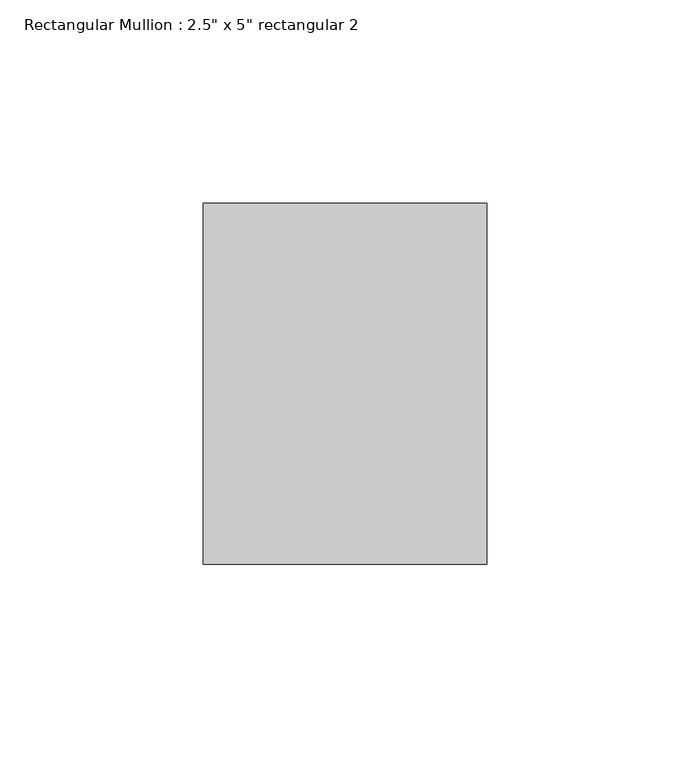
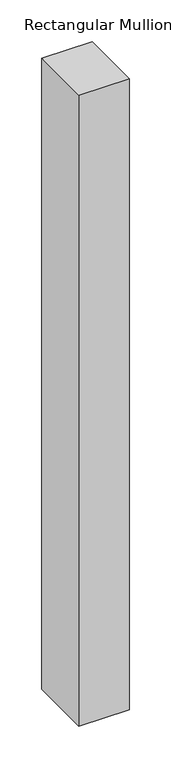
"""IFC4 building model written with IfcOpenShell, lengths in millimetres: member geometry."""

from ifc_helpers import new_model, si_unit, frame, origin, place, context, project, spatial, polyline, outline, extrude, source, transform, mapped, element, save


def member_1c5aa84d(model_context):
    return source(origin(), model_context, "Body", "SweptSolid", [
        extrude(outline(polyline([(0.0, 44.45), (0.0, -44.45), (-69.85, -44.45), (-69.85, 44.45), (0.0, 44.45)])), frame((0.0, 0.0, -923.925), z_axis=(0.0, 0.0, 1.0), x_axis=(1.0, 0.0, 0.0)), (0.0, 0.0, 1.0), 923.925),
    ])


if __name__ == "__main__":
    model = new_model("IFC4")
    model_context = context("Model", 3, world=origin())
    ifc_project = project(units=[si_unit("LENGTHUNIT", "METRE", prefix="MILLI")], contexts=[model_context])
    site = spatial("IfcSite", under=ifc_project)
    building = spatial("IfcBuilding", under=site)
    placement = place(None, origin())
    member_shape = member_1c5aa84d(model_context)
    element("IfcMember", 1, ObjectType="Rectangular Mullion : 2.5\" x 5\" rectangular 2", at=placement, inside=building, context=model_context, shape_type="MappedRepresentation", body=[
        mapped(member_shape, transform((0.0, 0.0, 0.0), x_axis=(1.0, 0.0, 0.0), y_axis=(0.0, 1.0, 0.0), z_axis=(0.0, 0.0, 1.0))),
    ])
    save(model, "model.ifc")
